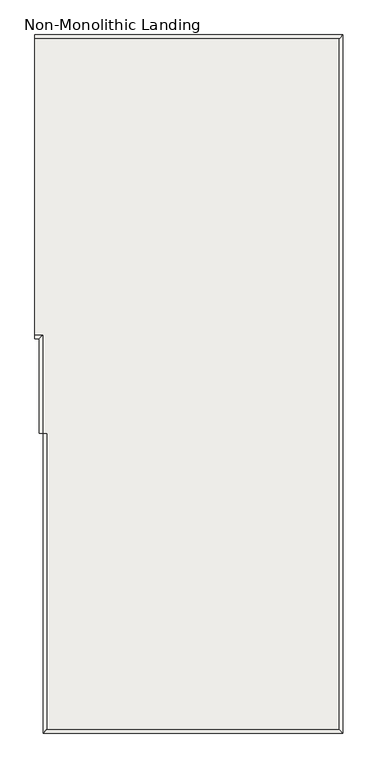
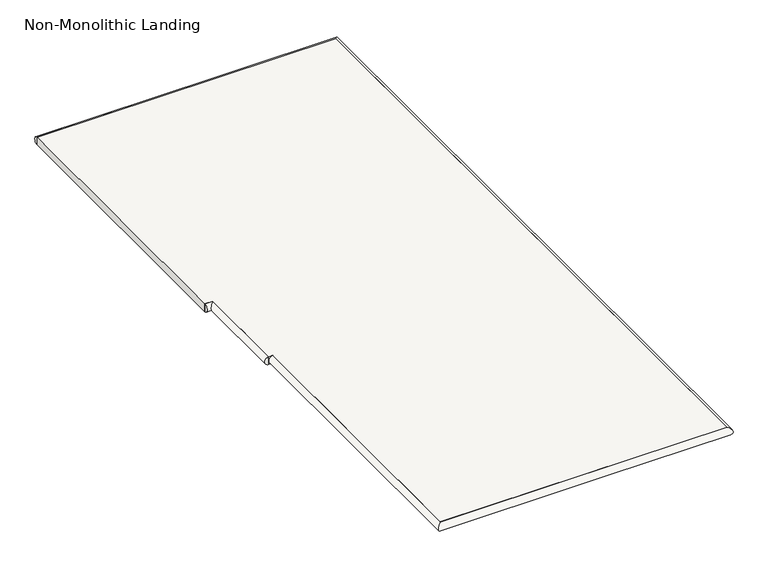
"""IFC4 building model written with IfcOpenShell, lengths in millimetres: slab geometry, Non-Monolithic Landing."""

from ifc_helpers import new_model, si_unit, frame, origin, place, context, project, spatial, circle_curve, ellipse_curve, faceted_brep, source, transform, mapped, element, save
from ifc_brep_helpers import plane_surface, cylinder_surface, advanced_brep


def non_monolithic_landing_861eff42(model_context):
    return source(origin(), model_context, "Body", "SolidModel", [
        faceted_brep([(-16004.0481446, -7321.6871906, 1524.0), (-15991.3481446, -7321.6871906, 1524.0), (-15991.3481446, -8236.0871906, 1524.0), (-15089.6481446, -8236.0871906, 1524.0), (-15089.6481446, -6102.4871906, 1524.0), (-16004.0481446, -6102.4871906, 1524.0), (-16029.4481446, -6102.4871906, 1524.0), (-16029.4481446, -7016.8871906, 1524.0), (-16004.0481446, -7016.8871906, 1524.0), (-16004.0481446, -7321.6871906, 1498.6), (-16004.0481446, -7016.8871906, 1498.6), (-16029.4481446, -7016.8871906, 1498.6), (-16029.4481446, -6102.4871906, 1498.6), (-16004.0481446, -6102.4871906, 1498.6), (-15089.6481446, -6102.4871906, 1498.6), (-15089.6481446, -8236.0871906, 1498.6), (-15991.3481446, -8236.0871906, 1498.6), (-15991.3481446, -7321.6871906, 1498.6)], [[[0, 1, 2, 3, 4, 5, 6, 7, 8]], [[9, 10, 11, 12, 13, 14, 15, 16, 17]], [[1, 0, 9, 17]], [[2, 1, 17, 16]], [[3, 2, 16, 15]], [[4, 3, 15, 14]], [[5, 4, 14, 13]], [[6, 5, 13, 12]], [[7, 6, 12, 11]], [[8, 7, 11, 10]], [[0, 8, 10, 9]]]),
        advanced_brep(
        [(-16029.4481446, -6102.4871906, 1524.0), (-16029.4481446, -6102.4871906, 1498.6), (-15089.6481446, -6102.4871906, 1524.0), (-15089.6481446, -6102.4871906, 1498.6), (-15089.6481446, -8236.0871906, 1524.0), (-15089.6481446, -8236.0871906, 1498.6), (-15991.3481446, -8236.0871906, 1524.0), (-15991.3481446, -8236.0871906, 1498.6), (-15991.3481446, -7321.6871906, 1524.0), (-15991.3481446, -7321.6871906, 1498.6)],
        [
            (0, 1, circle_curve(frame((-16029.4481446, -6102.4871906, 1511.3), z_axis=(-1.0, 0.0, 0.0), x_axis=(0.0, -1.0, 0.0)), 12.7)),
            (1, 0),
            (0, 2),
            (2, 3, ellipse_curve(frame((-15089.6481446, -6102.4871906, 1511.3), z_axis=(-0.7071067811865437, 0.7071067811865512, 0.0), x_axis=(-0.7071067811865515, -0.7071067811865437, 0.0)), 17.9605122, 12.7)),
            (3, 1),
            (3, 2),
            (2, 4),
            (4, 5, ellipse_curve(frame((-15089.6481446, -8236.0871906, 1511.3), z_axis=(0.7071067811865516, 0.7071067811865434, 0.0), x_axis=(-0.7071067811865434, 0.7071067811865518, 0.0)), 17.9605122, 12.7)),
            (5, 3),
            (5, 4),
            (4, 6),
            (6, 7, ellipse_curve(frame((-15991.3481446, -8236.0871906, 1511.3), z_axis=(0.7071067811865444, -0.7071067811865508, 0.0), x_axis=(0.7071067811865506, 0.7071067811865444, 0.0)), 17.9605122, 12.7)),
            (7, 5),
            (7, 6),
            (8, 9),
            (9, 8, circle_curve(frame((-15991.3481446, -7321.6871906, 1511.3), z_axis=(0.0, 1.0, 0.0), x_axis=(1.0, 0.0, 0.0)), 12.7)),
            (6, 8),
            (9, 7),
        ],
        [
            plane_surface(frame((-16029.4481446, -6102.4871906, 1524.0), z_axis=(-1.0, 0.0, 0.0), x_axis=(0.0, -1.0, 0.0))),
            cylinder_surface(frame((-16029.4481446, -6102.4871906, 1511.3), z_axis=(-1.0, 0.0, 0.0), x_axis=(0.0, -1.0, 0.0)), 12.7),
            plane_surface(frame((-16029.4481446, -6102.4871906, 1498.6), z_axis=(0.0, -1.0, 0.0), x_axis=(1.0, 0.0, 0.0))),
            cylinder_surface(frame((-15089.6481446, -6102.4871906, 1511.3), z_axis=(0.0, 1.0, 0.0), x_axis=(-1.0, 0.0, 0.0)), 12.7),
            plane_surface(frame((-15089.6481446, -6102.4871906, 1498.6), z_axis=(-1.0, 0.0, 0.0), x_axis=(0.0, -1.0, 0.0))),
            cylinder_surface(frame((-15089.6481446, -8236.0871906, 1511.3), z_axis=(1.0, 0.0, 0.0), x_axis=(0.0, 1.0, 0.0)), 12.7),
            plane_surface(frame((-15089.6481446, -8236.0871906, 1498.6), z_axis=(0.0, 1.0, 0.0), x_axis=(-1.0, 0.0, 0.0))),
            plane_surface(frame((-16016.7481446, -7321.6871906, 1524.0), z_axis=(0.0, 1.0, 0.0), x_axis=(0.0, 0.0, 1.0))),
            cylinder_surface(frame((-15991.3481446, -8236.0871906, 1511.3), z_axis=(0.0, -1.0, 0.0), x_axis=(1.0, 0.0, 0.0)), 12.7),
            plane_surface(frame((-15991.3481446, -8236.0871906, 1498.6), z_axis=(1.0, 0.0, 0.0), x_axis=(0.0, 1.0, 0.0))),
        ],
        [
            (0, [[1, 2]]),
            (1, [[-1, 3, 4, 5]]),
            (2, [[-2, -5, 6, -3]]),
            (3, [[-4, 7, 8, 9]]),
            (4, [[-6, -9, 10, -7]]),
            (5, [[-8, 11, 12, 13]]),
            (6, [[-10, -13, 14, -11]]),
            (7, [[15, 16]]),
            (8, [[-12, 17, -16, 18]]),
            (9, [[-14, -18, -15, -17]]),
        ],
    ),
        advanced_brep(
        [(-16004.0481446, -7321.6871906, 1524.0), (-16004.0481446, -7321.6871906, 1498.6), (-16004.0481446, -7016.8871906, 1524.0), (-16004.0481446, -7016.8871906, 1498.6), (-16029.4481446, -7016.8871906, 1524.0), (-16029.4481446, -7016.8871906, 1498.6)],
        [
            (0, 1, circle_curve(frame((-16004.0481446, -7321.6871906, 1511.3), z_axis=(0.0, -1.0, 0.0), x_axis=(1.0, 0.0, 0.0)), 12.7)),
            (1, 0),
            (0, 2),
            (2, 3, ellipse_curve(frame((-16004.0481446, -7016.8871906, 1511.3), z_axis=(0.7071067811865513, -0.7071067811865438, 0.0), x_axis=(-0.7071067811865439, -0.7071067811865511, 0.0)), 17.9605122, 12.7)),
            (3, 1),
            (3, 2),
            (4, 5),
            (5, 4, circle_curve(frame((-16029.4481446, -7016.8871906, 1511.3), z_axis=(-1.0, 0.0, 0.0), x_axis=(0.0, 1.0, 0.0)), 12.7)),
            (2, 4),
            (5, 3),
        ],
        [
            plane_surface(frame((-16029.4481446, -7321.6871906, 1524.0), z_axis=(0.0, -1.0, 0.0), x_axis=(0.0, 0.0, 1.0))),
            cylinder_surface(frame((-16004.0481446, -7321.6871906, 1511.3), z_axis=(0.0, -1.0, 0.0), x_axis=(1.0, 0.0, 0.0)), 12.7),
            plane_surface(frame((-16004.0481446, -7321.6871906, 1498.6), z_axis=(1.0, 0.0, 0.0), x_axis=(0.0, 1.0, 0.0))),
            plane_surface(frame((-16029.4481446, -7016.8871906, 1524.0), z_axis=(-1.0, 0.0, 0.0), x_axis=(0.0, -1.0, 0.0))),
            cylinder_surface(frame((-16004.0481446, -7016.8871906, 1511.3), z_axis=(1.0, 0.0, 0.0), x_axis=(0.0, 1.0, 0.0)), 12.7),
            plane_surface(frame((-16004.0481446, -7016.8871906, 1498.6), z_axis=(0.0, 1.0, 0.0), x_axis=(-1.0, 0.0, 0.0))),
        ],
        [
            (0, [[1, 2]]),
            (1, [[-1, 3, 4, 5]]),
            (2, [[-2, -5, 6, -3]]),
            (3, [[7, 8]]),
            (4, [[-4, 9, -8, 10]]),
            (5, [[-6, -10, -7, -9]]),
        ],
    ),
    ])


if __name__ == "__main__":
    model = new_model("IFC4")
    model_context = context("Model", 3, world=origin())
    ifc_project = project(units=[si_unit("LENGTHUNIT", "METRE", prefix="MILLI")], contexts=[model_context])
    site = spatial("IfcSite", under=ifc_project)
    building = spatial("IfcBuilding", under=site)
    placement = place(None, origin())
    non_monolithic_landing_shape = non_monolithic_landing_861eff42(model_context)
    element("IfcSlab", 1, ObjectType="Non-Monolithic Landing", at=placement, inside=building, context=model_context, shape_type="MappedRepresentation", body=[
        mapped(non_monolithic_landing_shape, transform((0.0, 0.0, 0.0), x_axis=(1.0, 0.0, 0.0), y_axis=(0.0, 1.0, 0.0), z_axis=(0.0, 0.0, 1.0))),
    ])
    save(model, "model.ifc")
